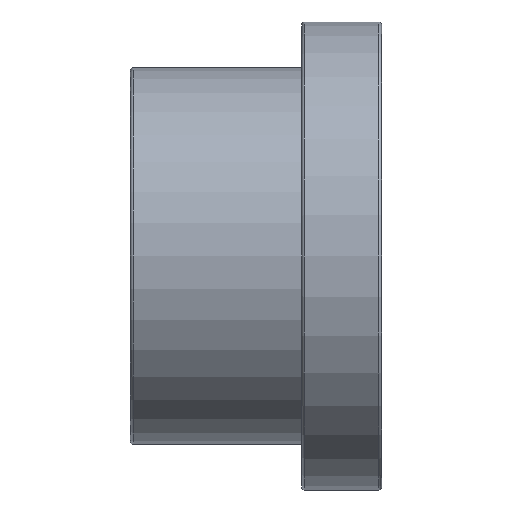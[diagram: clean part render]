
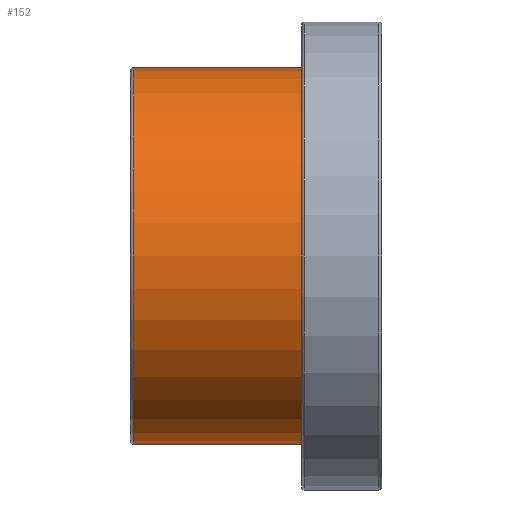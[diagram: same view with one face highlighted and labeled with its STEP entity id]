
A CAD part, front view. The second image highlights one B-rep face of the part: STEP entity #152.
In plain terms, the highlighted cylindrical face has radius 16.5 mm (diameter 33 mm), a full revolution.
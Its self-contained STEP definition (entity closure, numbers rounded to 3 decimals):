
#21=CYLINDRICAL_SURFACE('',#176,16.5);
#30=FACE_BOUND('',#64,.T.);
#43=FACE_OUTER_BOUND('',#63,.T.);
#63=EDGE_LOOP('',(#128));
#64=EDGE_LOOP('',(#129));
#78=CIRCLE('',#166,16.5);
#83=CIRCLE('',#175,16.5);
#91=VERTEX_POINT('',#250);
#96=VERTEX_POINT('',#264);
#104=EDGE_CURVE('',#91,#91,#78,.T.);
#109=EDGE_CURVE('',#96,#96,#83,.T.);
#128=ORIENTED_EDGE('',*,*,#104,.T.);
#129=ORIENTED_EDGE('',*,*,#109,.F.);
#152=ADVANCED_FACE('',(#43,#30),#21,.T.);
#166=AXIS2_PLACEMENT_3D('',#251,#200,#201);
#175=AXIS2_PLACEMENT_3D('',#265,#218,#219);
#176=AXIS2_PLACEMENT_3D('',#266,#220,#221);
#200=DIRECTION('center_axis',(-1.,0.,0.));
#201=DIRECTION('ref_axis',(0.,0.,1.));
#218=DIRECTION('center_axis',(-1.,0.,0.));
#219=DIRECTION('ref_axis',(0.,1.,0.));
#220=DIRECTION('center_axis',(-1.,0.,0.));
#221=DIRECTION('ref_axis',(0.,-1.,0.));
#250=CARTESIAN_POINT('',(15.,-16.5,0.));
#251=CARTESIAN_POINT('Origin',(15.,0.,0.));
#264=CARTESIAN_POINT('',(0.25,-16.5,0.));
#265=CARTESIAN_POINT('Origin',(0.25,0.,0.));
#266=CARTESIAN_POINT('Origin',(7.5,0.,0.));
